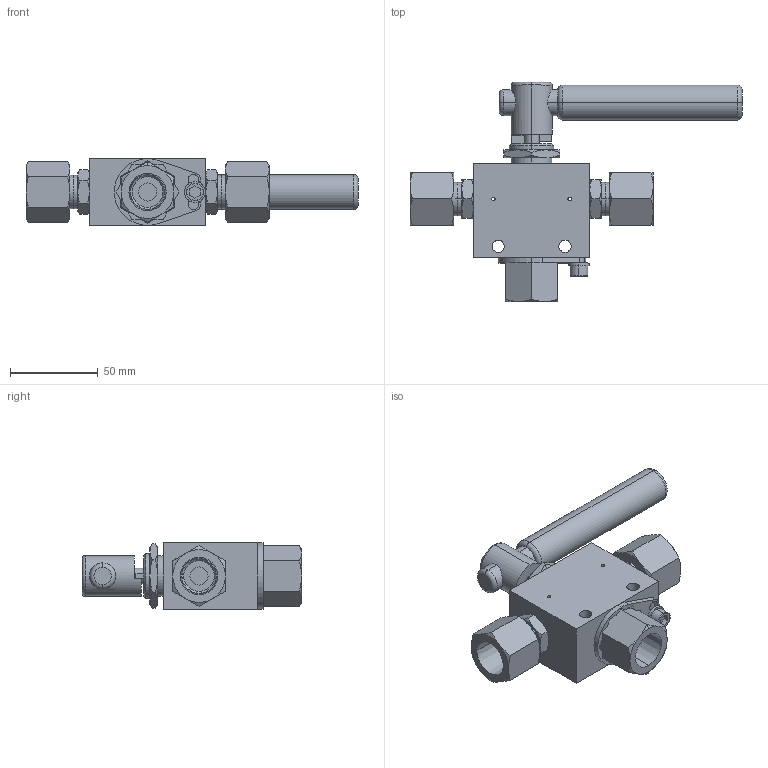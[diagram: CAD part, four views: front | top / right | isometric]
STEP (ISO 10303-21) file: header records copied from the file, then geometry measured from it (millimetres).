
FILE_DESCRIPTION (( 'STEP AP203' ), '1' );
FILE_NAME ('BVN03S08-3-180(贗董蹺陛).STEP', '2025-09-01T02:33:25', ( '' ), ( '' ), 'SwSTEP 2.0', 'SolidWorks 2023', '' );
FILE_SCHEMA (( 'CONFIG_CONTROL_DESIGN' ));
Length unit declared in the file: millimetre
Products named in the file (1): BVN03S08-3-180(클립추가)
Bounding box: 189.34 x 125 x 38 mm (x, y, z)
Volume: 233678.8 mm3; surface area: 48186.1 mm2
Topology: 1 solids, 1 shells, 281 faces, 654 edges, 396 vertices
Faces by surface type: plane 114, cone 94, cylinder 63, torus 10
Entity records: 8694 total; most frequent: CARTESIAN_POINT 2316, DIRECTION 1319, ORIENTED_EDGE 1300, EDGE_CURVE 650, AXIS2_PLACEMENT_3D 535, VERTEX_POINT 396, EDGE_LOOP 318, FACE_OUTER_BOUND 281
